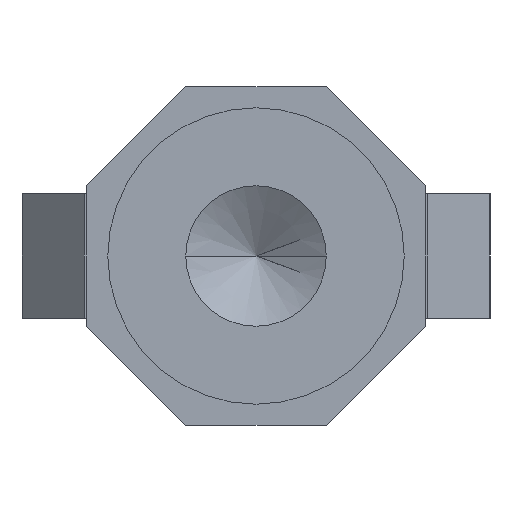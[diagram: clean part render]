
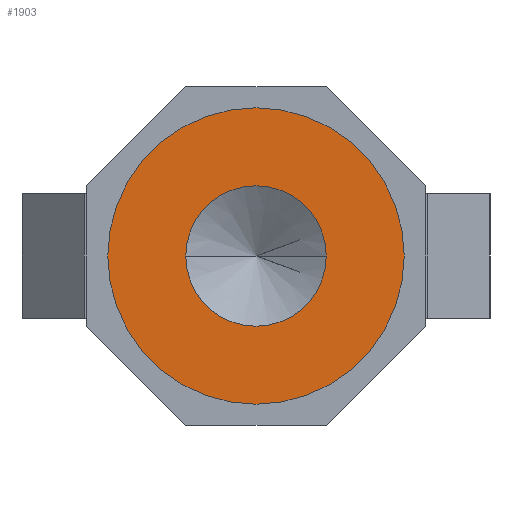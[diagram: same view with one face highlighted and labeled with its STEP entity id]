
A CAD part, left-side view. The second image highlights one B-rep face of the part: STEP entity #1903.
In plain terms, the highlighted planar face has unit normal (-1, 0, 0).
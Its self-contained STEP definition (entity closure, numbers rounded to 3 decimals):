
#640=CARTESIAN_POINT('',(-50.,0.,0.));
#641=DIRECTION('',(-1.,0.,0.));
#642=DIRECTION('',(0.,-1.,0.));
#643=AXIS2_PLACEMENT_3D('',#640,#641,#642);
#645=CARTESIAN_POINT('',(-50.,0.,0.));
#646=DIRECTION('',(-1.,0.,0.));
#647=DIRECTION('',(0.,1.,0.));
#648=AXIS2_PLACEMENT_3D('',#645,#646,#647);
#650=CARTESIAN_POINT('',(-50.,0.,0.));
#651=DIRECTION('',(-1.,0.,0.));
#652=DIRECTION('',(0.,1.,0.));
#653=AXIS2_PLACEMENT_3D('',#650,#651,#652);
#655=CARTESIAN_POINT('',(-50.,0.,0.));
#656=DIRECTION('',(-1.,0.,0.));
#657=DIRECTION('',(0.,-1.,0.));
#658=AXIS2_PLACEMENT_3D('',#655,#656,#657);
#694=CARTESIAN_POINT('',(-50.,-9.5,0.));
#695=CARTESIAN_POINT('',(-50.,9.5,0.));
#696=VERTEX_POINT('',#694);
#697=VERTEX_POINT('',#695);
#784=CARTESIAN_POINT('',(-50.,4.5,0.));
#785=CARTESIAN_POINT('',(-50.,-4.5,0.));
#786=VERTEX_POINT('',#784);
#787=VERTEX_POINT('',#785);
#1887=CARTESIAN_POINT('',(-50.,0.,0.));
#1888=DIRECTION('',(1.,0.,0.));
#1889=DIRECTION('',(0.,-1.,0.));
#1890=AXIS2_PLACEMENT_3D('',#1887,#1888,#1889);
#1891=PLANE('',#1890);
#1892=ORIENTED_EDGE('',*,*,#1877,.F.);
#1894=ORIENTED_EDGE('',*,*,#1893,.F.);
#1895=EDGE_LOOP('',(#1892,#1894));
#1896=FACE_OUTER_BOUND('',#1895,.F.);
#1898=ORIENTED_EDGE('',*,*,#1897,.T.);
#1900=ORIENTED_EDGE('',*,*,#1899,.T.);
#1901=EDGE_LOOP('',(#1898,#1900));
#1902=FACE_BOUND('',#1901,.F.);
#1903=ADVANCED_FACE('',(#1896,#1902),#1891,.F.);
#644=CIRCLE('',#643,9.5);
#649=CIRCLE('',#648,9.5);
#654=CIRCLE('',#653,4.5);
#659=CIRCLE('',#658,4.5);
#1877=EDGE_CURVE('',#696,#697,#644,.T.);
#1893=EDGE_CURVE('',#697,#696,#649,.T.);
#1897=EDGE_CURVE('',#786,#787,#654,.T.);
#1899=EDGE_CURVE('',#787,#786,#659,.T.);
